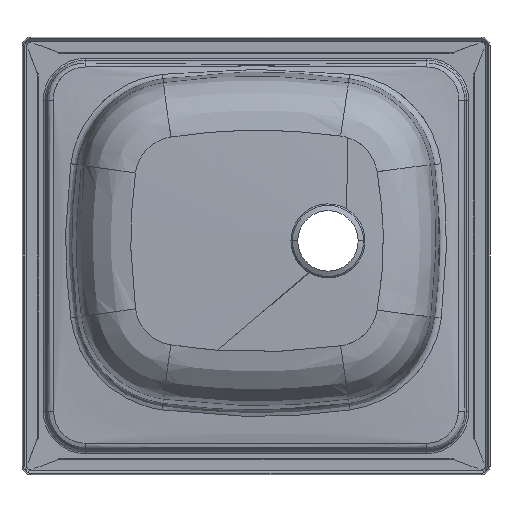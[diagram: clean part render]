
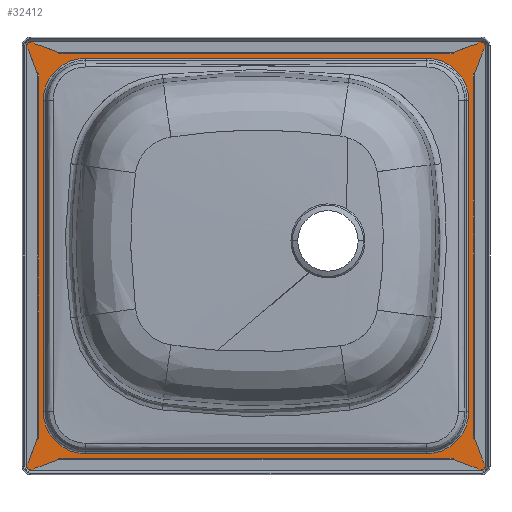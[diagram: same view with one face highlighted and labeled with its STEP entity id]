
A CAD part, front view. The second image highlights one B-rep face of the part: STEP entity #32412.
In plain terms, the highlighted planar face has unit normal (0, -1, 0).
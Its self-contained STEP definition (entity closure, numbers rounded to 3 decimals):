
#2206 = DIRECTION ( 'NONE',  ( -1., 0., 0. ) ) ;
#2903 = CARTESIAN_POINT ( 'NONE',  ( 211.305, -0.5, 154.68 ) ) ;
#3419 = EDGE_CURVE ( 'NONE', #79957, #13622, #35200, .T. ) ;
#3483 = ORIENTED_EDGE ( 'NONE', *, *, #67865, .F. ) ;
#3715 = DIRECTION ( 'NONE',  ( 0., -1., 0. ) ) ;
#3835 = VERTEX_POINT ( 'NONE', #49748 ) ;
#4130 = FACE_BOUND ( 'NONE', #51280, .T. ) ;
#4490 = EDGE_CURVE ( 'NONE', #41023, #27757, #62128, .T. ) ;
#5033 = CARTESIAN_POINT ( 'NONE',  ( -223.68, -0.5, -212.68 ) ) ;
#5510 = AXIS2_PLACEMENT_3D ( 'NONE', #34889, #66627, #61533 ) ;
#5852 = ORIENTED_EDGE ( 'NONE', *, *, #21817, .F. ) ;
#6167 = ORIENTED_EDGE ( 'NONE', *, *, #52012, .F. ) ;
#6305 = EDGE_CURVE ( 'NONE', #27757, #3835, #31589, .T. ) ;
#8624 = DIRECTION ( 'NONE',  ( 0., -1., 0. ) ) ;
#8730 = CARTESIAN_POINT ( 'NONE',  ( 223.68, -0.5, -212.68 ) ) ;
#8879 = EDGE_CURVE ( 'NONE', #43993, #41162, #71820, .T. ) ;
#9514 = EDGE_LOOP ( 'NONE', ( #59062, #50730, #28887, #33940, #5852, #37937, #47620, #79563 ) ) ;
#12187 = DIRECTION ( 'NONE',  ( 0., 0., 1. ) ) ;
#12584 = CARTESIAN_POINT ( 'NONE',  ( 169.68, -0.5, -196.305 ) ) ;
#12730 = ORIENTED_EDGE ( 'NONE', *, *, #57992, .F. ) ;
#13166 = VERTEX_POINT ( 'NONE', #8730 ) ;
#13622 = VERTEX_POINT ( 'NONE', #13669 ) ;
#13669 = CARTESIAN_POINT ( 'NONE',  ( 169.68, -0.5, 196.305 ) ) ;
#14134 = VERTEX_POINT ( 'NONE', #23325 ) ;
#15559 = DIRECTION ( 'NONE',  ( 0., -1., 0. ) ) ;
#16426 = DIRECTION ( 'NONE',  ( 0., 1., 0. ) ) ;
#17768 = LINE ( 'NONE', #18612, #31914 ) ;
#18195 = AXIS2_PLACEMENT_3D ( 'NONE', #52795, #51978, #25719 ) ;
#18612 = CARTESIAN_POINT ( 'NONE',  ( 227.68, -0.5, 208.68 ) ) ;
#19054 = CIRCLE ( 'NONE', #5510, 4. ) ;
#19468 = DIRECTION ( 'NONE',  ( -1., 0., 0. ) ) ;
#19599 = CARTESIAN_POINT ( 'NONE',  ( 227.68, -0.5, -208.68 ) ) ;
#20350 = VECTOR ( 'NONE', #44291, 1000. ) ;
#20456 = AXIS2_PLACEMENT_3D ( 'NONE', #61508, #8624, #34451 ) ;
#21779 = AXIS2_PLACEMENT_3D ( 'NONE', #59850, #78906, #39560 ) ;
#21817 = EDGE_CURVE ( 'NONE', #3835, #14134, #19054, .T. ) ;
#22216 = VERTEX_POINT ( 'NONE', #60291 ) ;
#22887 = LINE ( 'NONE', #28819, #35459 ) ;
#23193 = DIRECTION ( 'NONE',  ( 1., 0., 0. ) ) ;
#23325 = CARTESIAN_POINT ( 'NONE',  ( -223.68, -0.5, 212.68 ) ) ;
#24824 = AXIS2_PLACEMENT_3D ( 'NONE', #50709, #30806, #12187 ) ;
#25719 = DIRECTION ( 'NONE',  ( 0., 0., 1. ) ) ;
#26497 = CIRCLE ( 'NONE', #18195, 4. ) ;
#27757 = VERTEX_POINT ( 'NONE', #70476 ) ;
#28819 = CARTESIAN_POINT ( 'NONE',  ( -211.305, -0.5, 208.68 ) ) ;
#28850 = EDGE_CURVE ( 'NONE', #77709, #72694, #61308, .T. ) ;
#28854 = CARTESIAN_POINT ( 'NONE',  ( 223.68, -0.5, -212.68 ) ) ;
#28887 = ORIENTED_EDGE ( 'NONE', *, *, #57238, .F. ) ;
#29068 = VECTOR ( 'NONE', #19468, 1000. ) ;
#29534 = DIRECTION ( 'NONE',  ( 0., 0., 1. ) ) ;
#29957 = LINE ( 'NONE', #42674, #50563 ) ;
#30543 = EDGE_CURVE ( 'NONE', #13166, #41023, #66969, .T. ) ;
#30806 = DIRECTION ( 'NONE',  ( 0., -1., 0. ) ) ;
#30924 = CARTESIAN_POINT ( 'NONE',  ( 227.68, -0.5, 208.68 ) ) ;
#31055 = VERTEX_POINT ( 'NONE', #30924 ) ;
#31589 = LINE ( 'NONE', #43877, #20350 ) ;
#31914 = VECTOR ( 'NONE', #83379, 1000. ) ;
#32412 = ADVANCED_FACE ( 'NONE', ( #68492, #4130 ), #81175, .F. ) ;
#32678 = EDGE_CURVE ( 'NONE', #14134, #22216, #29957, .T. ) ;
#33291 = VERTEX_POINT ( 'NONE', #46977 ) ;
#33940 = ORIENTED_EDGE ( 'NONE', *, *, #32678, .F. ) ;
#34289 = ORIENTED_EDGE ( 'NONE', *, *, #28850, .F. ) ;
#34451 = DIRECTION ( 'NONE',  ( 0., 0., 1. ) ) ;
#34889 = CARTESIAN_POINT ( 'NONE',  ( -223.68, -0.5, 208.68 ) ) ;
#35200 = CIRCLE ( 'NONE', #82507, 41.625 ) ;
#35459 = VECTOR ( 'NONE', #54640, 1000. ) ;
#36665 = VERTEX_POINT ( 'NONE', #12584 ) ;
#37259 = LINE ( 'NONE', #63066, #59770 ) ;
#37937 = ORIENTED_EDGE ( 'NONE', *, *, #6305, .F. ) ;
#38364 = AXIS2_PLACEMENT_3D ( 'NONE', #56205, #16426, #49012 ) ;
#38643 = VECTOR ( 'NONE', #39477, 1000. ) ;
#39477 = DIRECTION ( 'NONE',  ( 0., 0., 1. ) ) ;
#39560 = DIRECTION ( 'NONE',  ( 0., 0., 1. ) ) ;
#40182 = LINE ( 'NONE', #70676, #29068 ) ;
#41023 = VERTEX_POINT ( 'NONE', #5033 ) ;
#41162 = VERTEX_POINT ( 'NONE', #74890 ) ;
#41382 = CARTESIAN_POINT ( 'NONE',  ( 169.68, -0.5, -154.68 ) ) ;
#42397 = CIRCLE ( 'NONE', #76183, 41.625 ) ;
#42674 = CARTESIAN_POINT ( 'NONE',  ( 223.68, -0.5, 212.68 ) ) ;
#43005 = ORIENTED_EDGE ( 'NONE', *, *, #73350, .F. ) ;
#43682 = DIRECTION ( 'NONE',  ( 0., 0., 1. ) ) ;
#43877 = CARTESIAN_POINT ( 'NONE',  ( -227.68, -0.5, 208.68 ) ) ;
#43993 = VERTEX_POINT ( 'NONE', #78161 ) ;
#44291 = DIRECTION ( 'NONE',  ( 0., 0., 1. ) ) ;
#46977 = CARTESIAN_POINT ( 'NONE',  ( 211.305, -0.5, -154.68 ) ) ;
#47615 = CARTESIAN_POINT ( 'NONE',  ( -211.305, -0.5, 154.68 ) ) ;
#47620 = ORIENTED_EDGE ( 'NONE', *, *, #4490, .F. ) ;
#49012 = DIRECTION ( 'NONE',  ( 0., 0., 1. ) ) ;
#49748 = CARTESIAN_POINT ( 'NONE',  ( -227.68, -0.5, 208.68 ) ) ;
#50028 = CARTESIAN_POINT ( 'NONE',  ( 223.68, -0.5, -208.68 ) ) ;
#50563 = VECTOR ( 'NONE', #23193, 1000. ) ;
#50709 = CARTESIAN_POINT ( 'NONE',  ( -169.68, -0.5, 154.68 ) ) ;
#50730 = ORIENTED_EDGE ( 'NONE', *, *, #67379, .F. ) ;
#51280 = EDGE_LOOP ( 'NONE', ( #43005, #34289, #6167, #61389, #12730, #51562, #3483, #70730 ) ) ;
#51562 = ORIENTED_EDGE ( 'NONE', *, *, #80832, .F. ) ;
#51978 = DIRECTION ( 'NONE',  ( 0., 1., 0. ) ) ;
#52012 = EDGE_CURVE ( 'NONE', #13622, #77709, #40182, .T. ) ;
#52795 = CARTESIAN_POINT ( 'NONE',  ( 223.68, -0.5, 208.68 ) ) ;
#54542 = AXIS2_PLACEMENT_3D ( 'NONE', #50028, #80532, #43682 ) ;
#54640 = DIRECTION ( 'NONE',  ( 0., 0., -1. ) ) ;
#55924 = VECTOR ( 'NONE', #2206, 1000. ) ;
#56205 = CARTESIAN_POINT ( 'NONE',  ( 223.68, -0.5, 208.68 ) ) ;
#57238 = EDGE_CURVE ( 'NONE', #22216, #31055, #26497, .T. ) ;
#57744 = VERTEX_POINT ( 'NONE', #19599 ) ;
#57992 = EDGE_CURVE ( 'NONE', #33291, #79957, #58953, .T. ) ;
#58953 = LINE ( 'NONE', #65301, #38643 ) ;
#59062 = ORIENTED_EDGE ( 'NONE', *, *, #82333, .F. ) ;
#59770 = VECTOR ( 'NONE', #83787, 1000. ) ;
#59850 = CARTESIAN_POINT ( 'NONE',  ( -223.68, -0.5, -208.68 ) ) ;
#60291 = CARTESIAN_POINT ( 'NONE',  ( 223.68, -0.5, 212.68 ) ) ;
#61308 = CIRCLE ( 'NONE', #24824, 41.625 ) ;
#61389 = ORIENTED_EDGE ( 'NONE', *, *, #3419, .F. ) ;
#61508 = CARTESIAN_POINT ( 'NONE',  ( -169.68, -0.5, -154.68 ) ) ;
#61533 = DIRECTION ( 'NONE',  ( 0., 0., 1. ) ) ;
#61717 = CARTESIAN_POINT ( 'NONE',  ( 169.68, -0.5, 154.68 ) ) ;
#62128 = CIRCLE ( 'NONE', #21779, 4. ) ;
#63066 = CARTESIAN_POINT ( 'NONE',  ( 223.68, -0.5, -196.305 ) ) ;
#64982 = CARTESIAN_POINT ( 'NONE',  ( -169.68, -0.5, 196.305 ) ) ;
#65301 = CARTESIAN_POINT ( 'NONE',  ( 211.305, -0.5, 208.68 ) ) ;
#66627 = DIRECTION ( 'NONE',  ( 0., 1., 0. ) ) ;
#66969 = LINE ( 'NONE', #28854, #55924 ) ;
#67379 = EDGE_CURVE ( 'NONE', #31055, #57744, #17768, .T. ) ;
#67865 = EDGE_CURVE ( 'NONE', #41162, #36665, #37259, .T. ) ;
#68492 = FACE_OUTER_BOUND ( 'NONE', #9514, .T. ) ;
#70476 = CARTESIAN_POINT ( 'NONE',  ( -227.68, -0.5, -208.68 ) ) ;
#70676 = CARTESIAN_POINT ( 'NONE',  ( 223.68, -0.5, 196.305 ) ) ;
#70730 = ORIENTED_EDGE ( 'NONE', *, *, #8879, .F. ) ;
#71820 = CIRCLE ( 'NONE', #20456, 41.625 ) ;
#72694 = VERTEX_POINT ( 'NONE', #47615 ) ;
#73118 = DIRECTION ( 'NONE',  ( 0., 0., 1. ) ) ;
#73350 = EDGE_CURVE ( 'NONE', #72694, #43993, #22887, .T. ) ;
#74890 = CARTESIAN_POINT ( 'NONE',  ( -169.68, -0.5, -196.305 ) ) ;
#76183 = AXIS2_PLACEMENT_3D ( 'NONE', #41382, #15559, #73118 ) ;
#77521 = CIRCLE ( 'NONE', #54542, 4. ) ;
#77709 = VERTEX_POINT ( 'NONE', #64982 ) ;
#78161 = CARTESIAN_POINT ( 'NONE',  ( -211.305, -0.5, -154.68 ) ) ;
#78906 = DIRECTION ( 'NONE',  ( 0., 1., 0. ) ) ;
#79563 = ORIENTED_EDGE ( 'NONE', *, *, #30543, .F. ) ;
#79957 = VERTEX_POINT ( 'NONE', #2903 ) ;
#80532 = DIRECTION ( 'NONE',  ( 0., 1., 0. ) ) ;
#80832 = EDGE_CURVE ( 'NONE', #36665, #33291, #42397, .T. ) ;
#81175 = PLANE ( 'NONE',  #38364 ) ;
#82333 = EDGE_CURVE ( 'NONE', #57744, #13166, #77521, .T. ) ;
#82507 = AXIS2_PLACEMENT_3D ( 'NONE', #61717, #3715, #29534 ) ;
#83379 = DIRECTION ( 'NONE',  ( 0., 0., -1. ) ) ;
#83787 = DIRECTION ( 'NONE',  ( 1., 0., 0. ) ) ;
